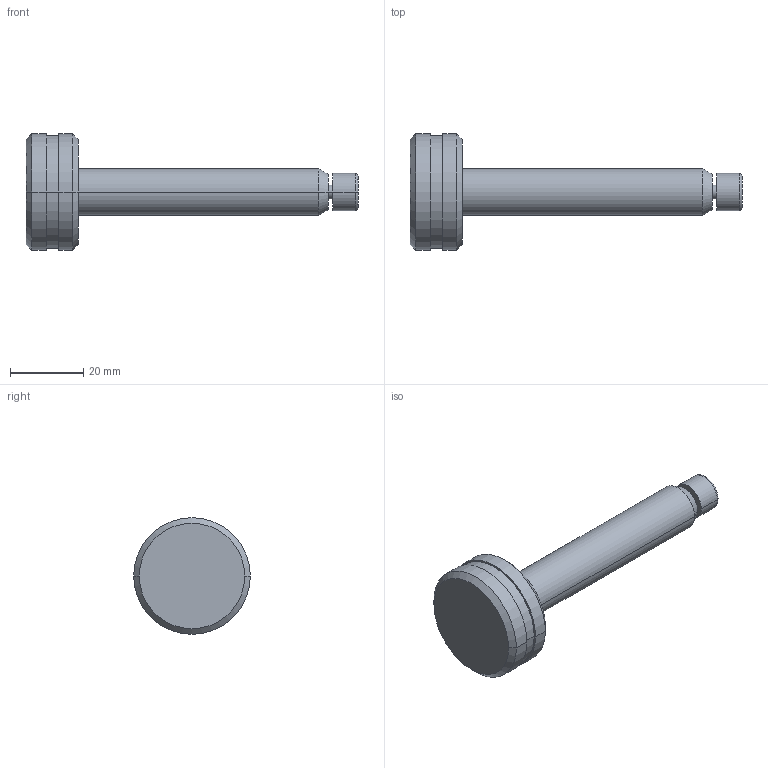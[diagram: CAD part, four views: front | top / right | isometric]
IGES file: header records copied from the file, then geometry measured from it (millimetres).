
Start section:  PTC IGES file: sch349-part.igs
Global section: file name: sch349-part.igs; native system: Pro/ENGINEER by Parametric Technology Corporation; preprocessor: 2002350; author: chant; organization: Unknown; date: 070530.082415; units: inch
Bounding box: 90.42 x 31.75 x 31.75 mm (x, y, z)
Surface area: 6100.2 mm2 (no closed solid volume)
Topology: 0 solids, 0 shells, 33 faces, 172 edges, 194 vertices
Faces by surface type: revolution 26, bspline 7
